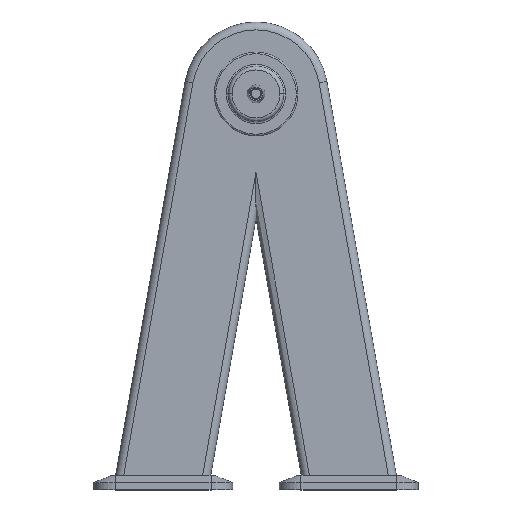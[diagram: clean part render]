
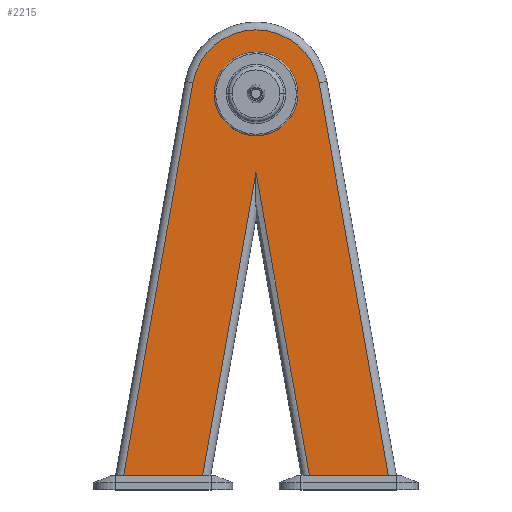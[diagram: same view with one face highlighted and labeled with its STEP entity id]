
A CAD part, top view. The second image highlights one B-rep face of the part: STEP entity #2215.
In plain terms, the highlighted planar face has unit normal (0, 0, 1).
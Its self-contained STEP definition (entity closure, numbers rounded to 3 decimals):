
#2 = CARTESIAN_POINT ( 'NONE',  ( -183.826, 20., 63. ) ) ;
#13 = DIRECTION ( 'NONE',  ( 1., 0., 0. ) ) ;
#119 = CARTESIAN_POINT ( 'NONE',  ( 80.272, -14.664, 63. ) ) ;
#173 = VERTEX_POINT ( 'NONE', #1056 ) ;
#205 = ORIENTED_EDGE ( 'NONE', *, *, #785, .F. ) ;
#241 = VECTOR ( 'NONE', #715, 1000. ) ;
#281 = CARTESIAN_POINT ( 'NONE',  ( 87.648, 565.455, 63. ) ) ;
#300 = VERTEX_POINT ( 'NONE', #2122 ) ;
#367 = EDGE_CURVE ( 'NONE', #963, #620, #2709, .T. ) ;
#408 = DIRECTION ( 'NONE',  ( 0.174, -0.985, 0. ) ) ;
#432 = EDGE_LOOP ( 'NONE', ( #1816, #2389, #1430, #205, #1467, #1358, #2093 ) ) ;
#494 = VECTOR ( 'NONE', #408, 1000. ) ;
#531 = CARTESIAN_POINT ( 'NONE',  ( 87.648, 565.455, 63. ) ) ;
#541 = PLANE ( 'NONE',  #1580 ) ;
#589 = VERTEX_POINT ( 'NONE', #995 ) ;
#620 = VERTEX_POINT ( 'NONE', #2006 ) ;
#624 = VERTEX_POINT ( 'NONE', #2 ) ;
#625 = VECTOR ( 'NONE', #2061, 1000. ) ;
#667 = VERTEX_POINT ( 'NONE', #1011 ) ;
#697 = CARTESIAN_POINT ( 'NONE',  ( -74.16, 20., 63. ) ) ;
#715 = DIRECTION ( 'NONE',  ( -0.174, -0.985, 0. ) ) ;
#785 = EDGE_CURVE ( 'NONE', #667, #589, #1177, .T. ) ;
#822 = AXIS2_PLACEMENT_3D ( 'NONE', #2466, #1242, #2668 ) ;
#847 = CARTESIAN_POINT ( 'NONE',  ( 0., 20., 63. ) ) ;
#889 = VECTOR ( 'NONE', #1318, 1000. ) ;
#910 = FACE_BOUND ( 'NONE', #2698, .T. ) ;
#963 = VERTEX_POINT ( 'NONE', #697 ) ;
#981 = CARTESIAN_POINT ( 'NONE',  ( 0., 550., 63. ) ) ;
#983 = CARTESIAN_POINT ( 'NONE',  ( 0., 550., 63. ) ) ;
#995 = CARTESIAN_POINT ( 'NONE',  ( 74.16, 20., 63. ) ) ;
#1011 = CARTESIAN_POINT ( 'NONE',  ( 183.826, 20., 63. ) ) ;
#1056 = CARTESIAN_POINT ( 'NONE',  ( -58., 550., 63. ) ) ;
#1131 = VERTEX_POINT ( 'NONE', #281 ) ;
#1135 = EDGE_CURVE ( 'NONE', #1131, #1862, #2450, .T. ) ;
#1177 = LINE ( 'NONE', #847, #625 ) ;
#1178 = DIRECTION ( 'NONE',  ( 1., 0., 0. ) ) ;
#1242 = DIRECTION ( 'NONE',  ( 0., 0., 1. ) ) ;
#1313 = LINE ( 'NONE', #531, #2271 ) ;
#1318 = DIRECTION ( 'NONE',  ( -1., 0., 0. ) ) ;
#1324 = CARTESIAN_POINT ( 'NONE',  ( -188.748, -7.91, 63. ) ) ;
#1350 = CARTESIAN_POINT ( 'NONE',  ( 0., 550., 63. ) ) ;
#1356 = LINE ( 'NONE', #2759, #889 ) ;
#1358 = ORIENTED_EDGE ( 'NONE', *, *, #1135, .T. ) ;
#1381 = DIRECTION ( 'NONE',  ( 0., 0., 1. ) ) ;
#1382 = CIRCLE ( 'NONE', #822, 58. ) ;
#1414 = LINE ( 'NONE', #1324, #241 ) ;
#1430 = ORIENTED_EDGE ( 'NONE', *, *, #1932, .T. ) ;
#1467 = ORIENTED_EDGE ( 'NONE', *, *, #2277, .T. ) ;
#1492 = VECTOR ( 'NONE', #2330, 1000. ) ;
#1522 = CARTESIAN_POINT ( 'NONE',  ( -10.833, 379.147, 63. ) ) ;
#1568 = DIRECTION ( 'NONE',  ( 1., 0., 0. ) ) ;
#1572 = EDGE_CURVE ( 'NONE', #963, #624, #1356, .T. ) ;
#1580 = AXIS2_PLACEMENT_3D ( 'NONE', #983, #1381, #13 ) ;
#1713 = AXIS2_PLACEMENT_3D ( 'NONE', #981, #2396, #1178 ) ;
#1771 = CIRCLE ( 'NONE', #2701, 58. ) ;
#1816 = ORIENTED_EDGE ( 'NONE', *, *, #1572, .F. ) ;
#1862 = VERTEX_POINT ( 'NONE', #2458 ) ;
#1877 = EDGE_CURVE ( 'NONE', #300, #173, #1382, .T. ) ;
#1932 = EDGE_CURVE ( 'NONE', #620, #589, #2692, .T. ) ;
#1933 = FACE_OUTER_BOUND ( 'NONE', #432, .T. ) ;
#2006 = CARTESIAN_POINT ( 'NONE',  ( 0., 440.583, 63. ) ) ;
#2061 = DIRECTION ( 'NONE',  ( -1., 0., 0. ) ) ;
#2093 = ORIENTED_EDGE ( 'NONE', *, *, #2648, .T. ) ;
#2122 = CARTESIAN_POINT ( 'NONE',  ( 58., 550., 63. ) ) ;
#2215 = ADVANCED_FACE ( 'NONE', ( #910, #1933 ), #541, .T. ) ;
#2271 = VECTOR ( 'NONE', #2462, 1000. ) ;
#2277 = EDGE_CURVE ( 'NONE', #667, #1131, #1313, .T. ) ;
#2330 = DIRECTION ( 'NONE',  ( 0.174, 0.985, 0. ) ) ;
#2389 = ORIENTED_EDGE ( 'NONE', *, *, #367, .T. ) ;
#2396 = DIRECTION ( 'NONE',  ( 0., 0., 1. ) ) ;
#2417 = ORIENTED_EDGE ( 'NONE', *, *, #1877, .F. ) ;
#2450 = CIRCLE ( 'NONE', #1713, 89. ) ;
#2458 = CARTESIAN_POINT ( 'NONE',  ( -87.648, 565.455, 63. ) ) ;
#2462 = DIRECTION ( 'NONE',  ( -0.174, 0.985, 0. ) ) ;
#2466 = CARTESIAN_POINT ( 'NONE',  ( 0., 550., 63. ) ) ;
#2648 = EDGE_CURVE ( 'NONE', #1862, #624, #1414, .T. ) ;
#2668 = DIRECTION ( 'NONE',  ( 1., 0., 0. ) ) ;
#2692 = LINE ( 'NONE', #119, #494 ) ;
#2698 = EDGE_LOOP ( 'NONE', ( #2782, #2417 ) ) ;
#2701 = AXIS2_PLACEMENT_3D ( 'NONE', #1350, #2794, #1568 ) ;
#2709 = LINE ( 'NONE', #1522, #1492 ) ;
#2717 = EDGE_CURVE ( 'NONE', #173, #300, #1771, .T. ) ;
#2759 = CARTESIAN_POINT ( 'NONE',  ( 0., 20., 63. ) ) ;
#2782 = ORIENTED_EDGE ( 'NONE', *, *, #2717, .F. ) ;
#2794 = DIRECTION ( 'NONE',  ( 0., 0., 1. ) ) ;
